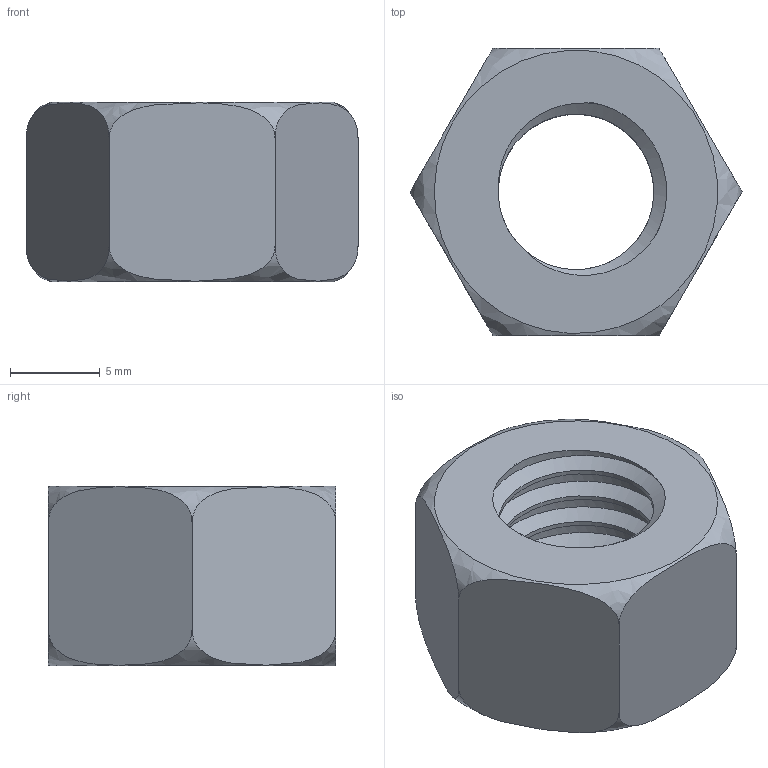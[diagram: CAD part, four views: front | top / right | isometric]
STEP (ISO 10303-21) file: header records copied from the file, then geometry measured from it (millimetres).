
FILE_DESCRIPTION ((), '1');
FILE_NAME ('C:\Users\tprototype\Desktop\TeslaGen-v1\Vendor Parts\M10 Fittings\M10 Nut\M10 Nut.stp', '2016-01-05T23:26:32', ('Unknown'), ('Unknown'), 'HarmonyWare STEP v1.7.11', 'HarmonyWare Translators', '');
FILE_SCHEMA (('CONFIG_CONTROL_DESIGN'));
Length unit declared in the file: millimetre
Products named in the file (1): product-name: product-name
Bounding box: 18.48 x 16.01 x 10 mm (x, y, z)
Volume: 1492.2 mm3; surface area: 1255.8 mm2
Topology: 1 solids, 1 shells, 32 faces, 90 edges, 60 vertices
Faces by surface type: bspline 32
Entity records: 14357 total; most frequent: CARTESIAN_POINT 13729, ORIENTED_EDGE 180, EDGE_CURVE 90, B_SPLINE_CURVE_WITH_KNOTS 74, VERTEX_POINT 60, EDGE_LOOP 34, FACE_OUTER_BOUND 32, ADVANCED_FACE 32
